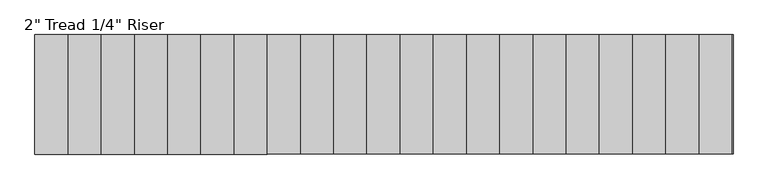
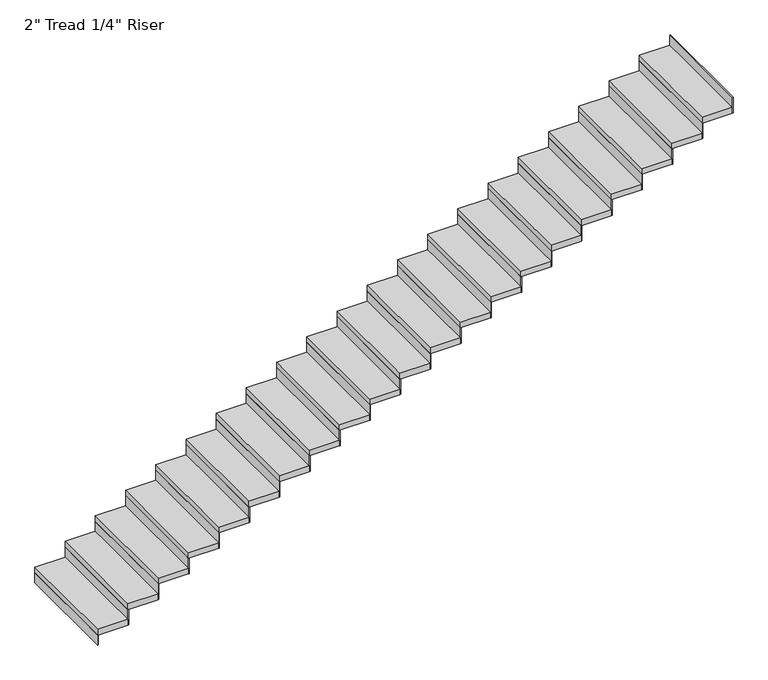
"""IFC4 building model written with IfcOpenShell, lengths in millimetres: stair flight geometry."""

from ifc_helpers import new_model, si_unit, frame, origin, origin_with_axes, place, context, project, spatial, polyline, outline, extrude, source, transform, mapped, element, save


def stair_flight_49c0e360(model_context):
    return source(origin(), model_context, "Body", "SweptSolid", [
        extrude(outline(polyline([(60455.5527721, 32332.2812523), (60449.2027721, 32332.2812523), (60449.2027721, 33246.6812523), (60455.5527721, 33246.6812523), (60455.5527721, 32332.2812523)])), origin_with_axes(), (0.0, 0.0, 1.0), 87.7454545),
        extrude(outline(polyline([(60703.2027721, 33246.6812523), (60703.2027721, 32332.2812523), (60449.2027721, 32332.2812523), (60449.2027721, 33246.6812523), (60703.2027721, 33246.6812523)])), frame((0.0, 0.0, 87.7454545), z_axis=(0.0, 0.0, 1.0), x_axis=(1.0, 0.0, 0.0)), (0.0, 0.0, 1.0), 50.8),
        extrude(outline(polyline([(60709.5527721, 32332.2812523), (60703.2027721, 32332.2812523), (60703.2027721, 33246.6812523), (60709.5527721, 33246.6812523), (60709.5527721, 32332.2812523)])), frame((0.0, 0.0, 87.7454545), z_axis=(0.0, 0.0, 1.0), x_axis=(1.0, 0.0, 0.0)), (0.0, 0.0, 1.0), 138.5454545),
        extrude(outline(polyline([(60957.2027721, 33246.6812523), (60957.2027721, 32332.2812523), (60703.2027721, 32332.2812523), (60703.2027721, 33246.6812523), (60957.2027721, 33246.6812523)])), frame((0.0, 0.0, 226.2909091), z_axis=(0.0, 0.0, 1.0), x_axis=(1.0, 0.0, 0.0)), (0.0, 0.0, 1.0), 50.8),
        extrude(outline(polyline([(60963.5527721, 32332.2812523), (60957.2027721, 32332.2812523), (60957.2027721, 33246.6812523), (60963.5527721, 33246.6812523), (60963.5527721, 32332.2812523)])), frame((0.0, 0.0, 226.2909091), z_axis=(0.0, 0.0, 1.0), x_axis=(1.0, 0.0, 0.0)), (0.0, 0.0, 1.0), 138.5454545),
        extrude(outline(polyline([(61211.2027721, 33246.6812523), (61211.2027721, 32332.2812523), (60957.2027721, 32332.2812523), (60957.2027721, 33246.6812523), (61211.2027721, 33246.6812523)])), frame((0.0, 0.0, 364.8363636), z_axis=(0.0, 0.0, 1.0), x_axis=(1.0, 0.0, 0.0)), (0.0, 0.0, 1.0), 50.8),
        extrude(outline(polyline([(61217.5527721, 32332.2812523), (61211.2027721, 32332.2812523), (61211.2027721, 33246.6812523), (61217.5527721, 33246.6812523), (61217.5527721, 32332.2812523)])), frame((0.0, 0.0, 364.8363636), z_axis=(0.0, 0.0, 1.0), x_axis=(1.0, 0.0, 0.0)), (0.0, 0.0, 1.0), 138.5454545),
        extrude(outline(polyline([(61465.2027721, 33246.6812523), (61465.2027721, 32332.2812523), (61211.2027721, 32332.2812523), (61211.2027721, 33246.6812523), (61465.2027721, 33246.6812523)])), frame((0.0, 0.0, 503.3818182), z_axis=(0.0, 0.0, 1.0), x_axis=(1.0, 0.0, 0.0)), (0.0, 0.0, 1.0), 50.8),
        extrude(outline(polyline([(61471.5527721, 32332.2812523), (61465.2027721, 32332.2812523), (61465.2027721, 33246.6812523), (61471.5527721, 33246.6812523), (61471.5527721, 32332.2812523)])), frame((0.0, 0.0, 503.3818182), z_axis=(0.0, 0.0, 1.0), x_axis=(1.0, 0.0, 0.0)), (0.0, 0.0, 1.0), 138.5454545),
        extrude(outline(polyline([(61719.2027721, 33246.6812523), (61719.2027721, 32332.2812523), (61465.2027721, 32332.2812523), (61465.2027721, 33246.6812523), (61719.2027721, 33246.6812523)])), frame((0.0, 0.0, 641.9272727), z_axis=(0.0, 0.0, 1.0), x_axis=(1.0, 0.0, 0.0)), (0.0, 0.0, 1.0), 50.8),
        extrude(outline(polyline([(61725.5527721, 32332.2812523), (61719.2027721, 32332.2812523), (61719.2027721, 33246.6812523), (61725.5527721, 33246.6812523), (61725.5527721, 32332.2812523)])), frame((0.0, 0.0, 641.9272727), z_axis=(0.0, 0.0, 1.0), x_axis=(1.0, 0.0, 0.0)), (0.0, 0.0, 1.0), 138.5454545),
        extrude(outline(polyline([(61973.2027721, 33246.6812523), (61973.2027721, 32332.2812523), (61719.2027721, 32332.2812523), (61719.2027721, 33246.6812523), (61973.2027721, 33246.6812523)])), frame((0.0, 0.0, 780.4727273), z_axis=(0.0, 0.0, 1.0), x_axis=(1.0, 0.0, 0.0)), (0.0, 0.0, 1.0), 50.8),
        extrude(outline(polyline([(61979.5527721, 32332.2812523), (61973.2027721, 32332.2812523), (61973.2027721, 33246.6812523), (61979.5527721, 33246.6812523), (61979.5527721, 32332.2812523)])), frame((0.0, 0.0, 780.4727273), z_axis=(0.0, 0.0, 1.0), x_axis=(1.0, 0.0, 0.0)), (0.0, 0.0, 1.0), 138.5454545),
        extrude(outline(polyline([(62227.2027721, 33246.6812523), (62227.2027721, 32332.2812523), (61973.2027721, 32332.2812523), (61973.2027721, 33246.6812523), (62227.2027721, 33246.6812523)])), frame((0.0, 0.0, 919.0181818), z_axis=(0.0, 0.0, 1.0), x_axis=(1.0, 0.0, 0.0)), (0.0, 0.0, 1.0), 50.8),
        extrude(outline(polyline([(62233.5527721, 32332.2812523), (62227.2027721, 32332.2812523), (62227.2027721, 33246.6812523), (62233.5527721, 33246.6812523), (62233.5527721, 32332.2812523)])), frame((0.0, 0.0, 919.0181818), z_axis=(0.0, 0.0, 1.0), x_axis=(1.0, 0.0, 0.0)), (0.0, 0.0, 1.0), 138.5454545),
        extrude(outline(polyline([(62481.2027721, 33246.6812523), (62481.2027721, 32332.2812523), (62227.2027721, 32332.2812523), (62227.2027721, 33246.6812523), (62481.2027721, 33246.6812523)])), frame((0.0, 0.0, 1057.5636364), z_axis=(0.0, 0.0, 1.0), x_axis=(1.0, 0.0, 0.0)), (0.0, 0.0, 1.0), 50.8),
        extrude(outline(polyline([(62487.5527721, 32332.2812523), (62481.2027721, 32332.2812523), (62481.2027721, 33246.6812523), (62487.5527721, 33246.6812523), (62487.5527721, 32332.2812523)])), frame((0.0, 0.0, 1057.5636364), z_axis=(0.0, 0.0, 1.0), x_axis=(1.0, 0.0, 0.0)), (0.0, 0.0, 1.0), 138.5454545),
        extrude(outline(polyline([(62735.2027721, 33246.6812523), (62735.2027721, 32332.2812523), (62481.2027721, 32332.2812523), (62481.2027721, 33246.6812523), (62735.2027721, 33246.6812523)])), frame((0.0, 0.0, 1196.1090909), z_axis=(0.0, 0.0, 1.0), x_axis=(1.0, 0.0, 0.0)), (0.0, 0.0, 1.0), 50.8),
        extrude(outline(polyline([(62741.5527721, 32332.2812523), (62735.2027721, 32332.2812523), (62735.2027721, 33246.6812523), (62741.5527721, 33246.6812523), (62741.5527721, 32332.2812523)])), frame((0.0, 0.0, 1196.1090909), z_axis=(0.0, 0.0, 1.0), x_axis=(1.0, 0.0, 0.0)), (0.0, 0.0, 1.0), 138.5454545),
        extrude(outline(polyline([(62989.2027721, 33246.6812523), (62989.2027721, 32332.2812523), (62735.2027721, 32332.2812523), (62735.2027721, 33246.6812523), (62989.2027721, 33246.6812523)])), frame((0.0, 0.0, 1334.6545455), z_axis=(0.0, 0.0, 1.0), x_axis=(1.0, 0.0, 0.0)), (0.0, 0.0, 1.0), 50.8),
        extrude(outline(polyline([(62995.5527721, 32332.2812523), (62989.2027721, 32332.2812523), (62989.2027721, 33246.6812523), (62995.5527721, 33246.6812523), (62995.5527721, 32332.2812523)])), frame((0.0, 0.0, 1334.6545455), z_axis=(0.0, 0.0, 1.0), x_axis=(1.0, 0.0, 0.0)), (0.0, 0.0, 1.0), 138.5454545),
        extrude(outline(polyline([(63243.2027721, 33246.6812523), (63243.2027721, 32332.2812523), (62989.2027721, 32332.2812523), (62989.2027721, 33246.6812523), (63243.2027721, 33246.6812523)])), frame((0.0, 0.0, 1473.2), z_axis=(0.0, 0.0, 1.0), x_axis=(1.0, 0.0, 0.0)), (0.0, 0.0, 1.0), 50.8),
        extrude(outline(polyline([(63249.5527721, 32332.2812523), (63243.2027721, 32332.2812523), (63243.2027721, 33246.6812523), (63249.5527721, 33246.6812523), (63249.5527721, 32332.2812523)])), frame((0.0, 0.0, 1473.2), z_axis=(0.0, 0.0, 1.0), x_axis=(1.0, 0.0, 0.0)), (0.0, 0.0, 1.0), 138.5454545),
        extrude(outline(polyline([(63497.2027721, 33246.6812523), (63497.2027721, 32332.2812523), (63243.2027721, 32332.2812523), (63243.2027721, 33246.6812523), (63497.2027721, 33246.6812523)])), frame((0.0, 0.0, 1611.7454545), z_axis=(0.0, 0.0, 1.0), x_axis=(1.0, 0.0, 0.0)), (0.0, 0.0, 1.0), 50.8),
        extrude(outline(polyline([(63503.5527721, 32332.2812523), (63497.2027721, 32332.2812523), (63497.2027721, 33246.6812523), (63503.5527721, 33246.6812523), (63503.5527721, 32332.2812523)])), frame((0.0, 0.0, 1611.7454545), z_axis=(0.0, 0.0, 1.0), x_axis=(1.0, 0.0, 0.0)), (0.0, 0.0, 1.0), 138.5454545),
        extrude(outline(polyline([(63751.2027721, 33246.6812523), (63751.2027721, 32332.2812523), (63497.2027721, 32332.2812523), (63497.2027721, 33246.6812523), (63751.2027721, 33246.6812523)])), frame((0.0, 0.0, 1750.2909091), z_axis=(0.0, 0.0, 1.0), x_axis=(1.0, 0.0, 0.0)), (0.0, 0.0, 1.0), 50.8),
        extrude(outline(polyline([(63757.5527721, 32332.2812523), (63751.2027721, 32332.2812523), (63751.2027721, 33246.6812523), (63757.5527721, 33246.6812523), (63757.5527721, 32332.2812523)])), frame((0.0, 0.0, 1750.2909091), z_axis=(0.0, 0.0, 1.0), x_axis=(1.0, 0.0, 0.0)), (0.0, 0.0, 1.0), 138.5454545),
        extrude(outline(polyline([(64005.2027721, 33246.6812523), (64005.2027721, 32332.2812523), (63751.2027721, 32332.2812523), (63751.2027721, 33246.6812523), (64005.2027721, 33246.6812523)])), frame((0.0, 0.0, 1888.8363636), z_axis=(0.0, 0.0, 1.0), x_axis=(1.0, 0.0, 0.0)), (0.0, 0.0, 1.0), 50.8),
        extrude(outline(polyline([(64011.5527721, 32332.2812523), (64005.2027721, 32332.2812523), (64005.2027721, 33246.6812523), (64011.5527721, 33246.6812523), (64011.5527721, 32332.2812523)])), frame((0.0, 0.0, 1888.8363636), z_axis=(0.0, 0.0, 1.0), x_axis=(1.0, 0.0, 0.0)), (0.0, 0.0, 1.0), 138.5454545),
        extrude(outline(polyline([(64259.2027721, 33246.6812523), (64259.2027721, 32332.2812523), (64005.2027721, 32332.2812523), (64005.2027721, 33246.6812523), (64259.2027721, 33246.6812523)])), frame((0.0, 0.0, 2027.3818182), z_axis=(0.0, 0.0, 1.0), x_axis=(1.0, 0.0, 0.0)), (0.0, 0.0, 1.0), 50.8),
        extrude(outline(polyline([(64265.5527721, 32332.2812523), (64259.2027721, 32332.2812523), (64259.2027721, 33246.6812523), (64265.5527721, 33246.6812523), (64265.5527721, 32332.2812523)])), frame((0.0, 0.0, 2027.3818182), z_axis=(0.0, 0.0, 1.0), x_axis=(1.0, 0.0, 0.0)), (0.0, 0.0, 1.0), 138.5454545),
        extrude(outline(polyline([(64513.2027721, 33246.6812523), (64513.2027721, 32332.2812523), (64259.2027721, 32332.2812523), (64259.2027721, 33246.6812523), (64513.2027721, 33246.6812523)])), frame((0.0, 0.0, 2165.9272727), z_axis=(0.0, 0.0, 1.0), x_axis=(1.0, 0.0, 0.0)), (0.0, 0.0, 1.0), 50.8),
        extrude(outline(polyline([(64519.5527721, 32332.2812523), (64513.2027721, 32332.2812523), (64513.2027721, 33246.6812523), (64519.5527721, 33246.6812523), (64519.5527721, 32332.2812523)])), frame((0.0, 0.0, 2165.9272727), z_axis=(0.0, 0.0, 1.0), x_axis=(1.0, 0.0, 0.0)), (0.0, 0.0, 1.0), 138.5454545),
        extrude(outline(polyline([(64767.2027721, 33246.6812523), (64767.2027721, 32332.2812523), (64513.2027721, 32332.2812523), (64513.2027721, 33246.6812523), (64767.2027721, 33246.6812523)])), frame((0.0, 0.0, 2304.4727273), z_axis=(0.0, 0.0, 1.0), x_axis=(1.0, 0.0, 0.0)), (0.0, 0.0, 1.0), 50.8),
        extrude(outline(polyline([(64773.5527721, 32332.2812523), (64767.2027721, 32332.2812523), (64767.2027721, 33246.6812523), (64773.5527721, 33246.6812523), (64773.5527721, 32332.2812523)])), frame((0.0, 0.0, 2304.4727273), z_axis=(0.0, 0.0, 1.0), x_axis=(1.0, 0.0, 0.0)), (0.0, 0.0, 1.0), 138.5454545),
        extrude(outline(polyline([(65021.2027721, 33246.6812523), (65021.2027721, 32332.2812523), (64767.2027721, 32332.2812523), (64767.2027721, 33246.6812523), (65021.2027721, 33246.6812523)])), frame((0.0, 0.0, 2443.0181818), z_axis=(0.0, 0.0, 1.0), x_axis=(1.0, 0.0, 0.0)), (0.0, 0.0, 1.0), 50.8),
        extrude(outline(polyline([(65027.5527721, 32332.2812523), (65021.2027721, 32332.2812523), (65021.2027721, 33246.6812523), (65027.5527721, 33246.6812523), (65027.5527721, 32332.2812523)])), frame((0.0, 0.0, 2443.0181818), z_axis=(0.0, 0.0, 1.0), x_axis=(1.0, 0.0, 0.0)), (0.0, 0.0, 1.0), 138.5454545),
        extrude(outline(polyline([(65275.2027721, 33246.6812523), (65275.2027721, 32332.2812523), (65021.2027721, 32332.2812523), (65021.2027721, 33246.6812523), (65275.2027721, 33246.6812523)])), frame((0.0, 0.0, 2581.5636364), z_axis=(0.0, 0.0, 1.0), x_axis=(1.0, 0.0, 0.0)), (0.0, 0.0, 1.0), 50.8),
        extrude(outline(polyline([(65281.5527721, 32332.2812523), (65275.2027721, 32332.2812523), (65275.2027721, 33246.6812523), (65281.5527721, 33246.6812523), (65281.5527721, 32332.2812523)])), frame((0.0, 0.0, 2581.5636364), z_axis=(0.0, 0.0, 1.0), x_axis=(1.0, 0.0, 0.0)), (0.0, 0.0, 1.0), 138.5454545),
        extrude(outline(polyline([(65529.2027721, 33246.6812523), (65529.2027721, 32332.2812523), (65275.2027721, 32332.2812523), (65275.2027721, 33246.6812523), (65529.2027721, 33246.6812523)])), frame((0.0, 0.0, 2720.1090909), z_axis=(0.0, 0.0, 1.0), x_axis=(1.0, 0.0, 0.0)), (0.0, 0.0, 1.0), 50.8),
        extrude(outline(polyline([(65535.5527721, 32332.2812523), (65529.2027721, 32332.2812523), (65529.2027721, 33246.6812523), (65535.5527721, 33246.6812523), (65535.5527721, 32332.2812523)])), frame((0.0, 0.0, 2720.1090909), z_axis=(0.0, 0.0, 1.0), x_axis=(1.0, 0.0, 0.0)), (0.0, 0.0, 1.0), 138.5454545),
        extrude(outline(polyline([(65789.5527721, 32332.2812523), (65783.2027721, 32332.2812523), (65783.2027721, 33246.6812523), (65789.5527721, 33246.6812523), (65789.5527721, 32332.2812523)])), frame((0.0, 0.0, 2858.6545455), z_axis=(0.0, 0.0, 1.0), x_axis=(1.0, 0.0, 0.0)), (0.0, 0.0, 1.0), 138.5454545),
        extrude(outline(polyline([(65783.2027721, 33246.6812523), (65783.2027721, 32332.2812523), (65529.2027721, 32332.2812523), (65529.2027721, 33246.6812523), (65783.2027721, 33246.6812523)])), frame((0.0, 0.0, 2858.6545455), z_axis=(0.0, 0.0, 1.0), x_axis=(1.0, 0.0, 0.0)), (0.0, 0.0, 1.0), 50.8),
    ])


if __name__ == "__main__":
    model = new_model("IFC4")
    model_context = context("Model", 3, world=origin())
    ifc_project = project(units=[si_unit("LENGTHUNIT", "METRE", prefix="MILLI")], contexts=[model_context])
    site = spatial("IfcSite", under=ifc_project)
    building = spatial("IfcBuilding", under=site)
    placement = place(None, origin())
    stair_flight_shape = stair_flight_49c0e360(model_context)
    element("IfcStairFlight", 1, ObjectType="2\" Tread 1/4\" Riser", at=placement, inside=building, context=model_context, shape_type="MappedRepresentation", body=[
        mapped(stair_flight_shape, transform((0.0, 0.0, 0.0), x_axis=(1.0, 0.0, 0.0), y_axis=(0.0, 1.0, 0.0), z_axis=(0.0, 0.0, 1.0))),
    ])
    save(model, "model.ifc")
